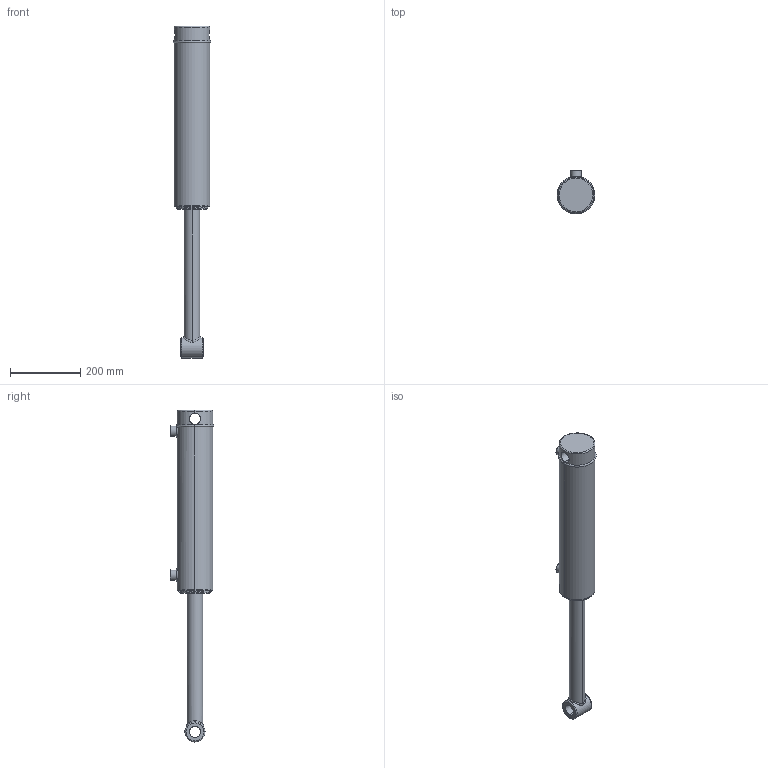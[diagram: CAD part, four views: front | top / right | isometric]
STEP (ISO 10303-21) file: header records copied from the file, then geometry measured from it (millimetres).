
FILE_DESCRIPTION (( 'STEP AP203' ), '1' );
FILE_NAME ('SB-C350175x355 (14) extended.STEP', '2015-04-01T02:04:09', ( '' ), ( '' ), 'SwSTEP 2.0', 'SolidWorks 2015', '' );
FILE_SCHEMA (( 'CONFIG_CONTROL_DESIGN' ));
Length unit declared in the file: millimetre
Products named in the file (6): 18 spare_14; spare 18; SB-C350175x355 (14) extended; SB-C350175x457 (18) BODY_14; 3.5 INCH CIRCLIP; SB-C350175x457 (18) BODY
Assembly tree (5 placements, depth 3):
  SB-C350175x355 (14) extended
    SB-C350175x457 (18) BODY
      SB-C350175x457 (18) BODY_14
      3.5 INCH CIRCLIP
    spare 18
      18 spare_14
Bounding box: 107.6 x 124.6 x 944.58 mm (x, y, z)
Volume: 4410728.9 mm3; surface area: 336747.5 mm2
Topology: 3 solids, 3 shells, 114 faces, 269 edges, 167 vertices
Faces by surface type: cylinder 49, plane 23, bspline 22, cone 12, torus 8
Entity records: 13049 total; most frequent: CARTESIAN_POINT 9929, ORIENTED_EDGE 530, DIRECTION 518, EDGE_CURVE 265, AXIS2_PLACEMENT_3D 220, VERTEX_POINT 167, EDGE_LOOP 134, CIRCLE 118
